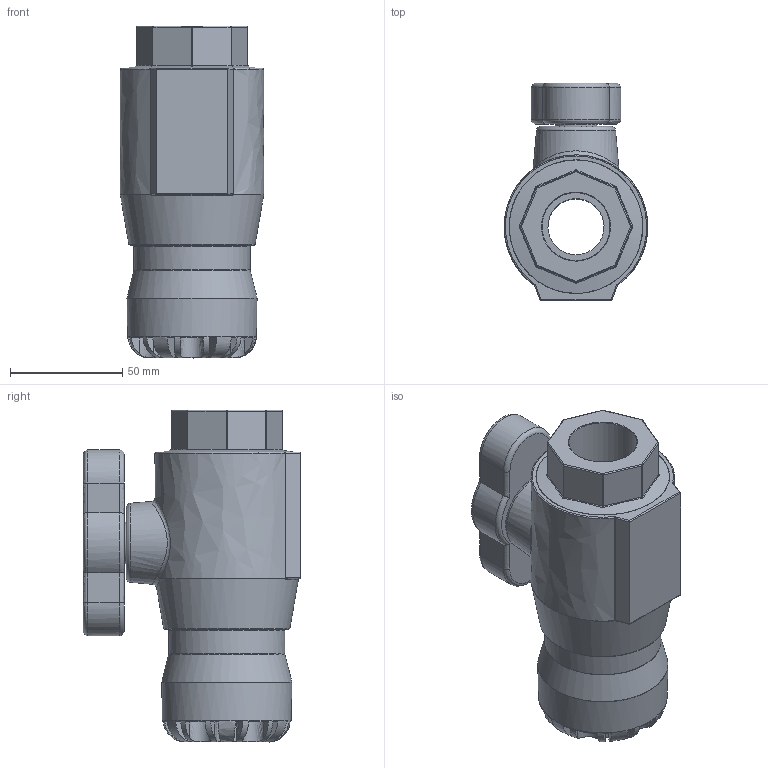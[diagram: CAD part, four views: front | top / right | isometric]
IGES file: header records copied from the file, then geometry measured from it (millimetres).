
Global section: file name: 03710030S00032010_03710030SF0032010; native system: Autodesk Inventor 2019; preprocessor: unknown; author: Lenora; date: 20220418.173830; units: millimetre
Bounding box: 64 x 97 x 148 mm (x, y, z)
Volume: 372816.1 mm3; surface area: 56461.4 mm2
Topology: 1 solids, 1 shells, 214 faces, 530 edges, 325 vertices
Faces by surface type: bspline 214
